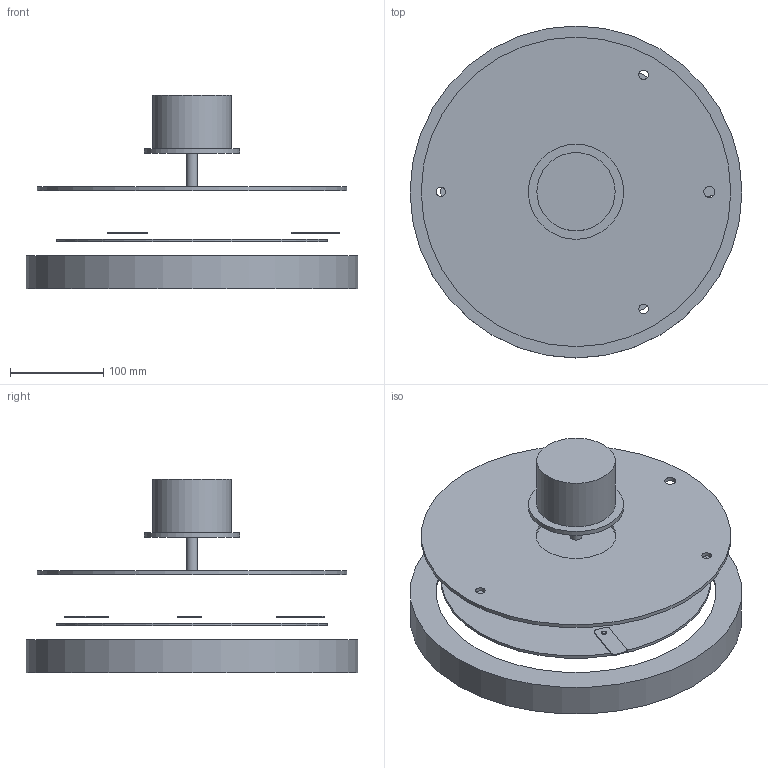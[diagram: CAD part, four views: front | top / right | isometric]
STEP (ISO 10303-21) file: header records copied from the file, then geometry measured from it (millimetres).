
FILE_DESCRIPTION(('Open CASCADE Model'),'2;1');
FILE_NAME('Open CASCADE Shape Model','2026-09-16T16:54:28',('Author'),( 'Open CASCADE'),'Open CASCADE STEP processor 7.8','Open CASCADE 7.8' ,'Unknown');
FILE_SCHEMA(('AUTOMOTIVE_DESIGN { 1 0 10303 214 1 1 1 1 }'));
Length unit declared in the file: millimetre
Products named in the file (6): cutting_deck_exploded_view; guard; blade_carrier; pivot_blade_1; height_carriage; blade_motor_proxy
Assembly tree (7 placements, depth 2):
  cutting_deck_exploded_view
    guard
    blade_carrier
    pivot_blade_1  x3
    height_carriage
    blade_motor_proxy
Bounding box: 356 x 356 x 207 mm (x, y, z)
Volume: 1283435.5 mm3; surface area: 475031.4 mm2
Topology: 7 solids, 7 shells, 67 faces, 147 edges, 97 vertices
Faces by surface type: cylinder 38, plane 29
Full cylindrical faces by diameter (mm): 5.2 x3, 5.5 x9, 10.2 x3, 12 x2, 16 x1, 84 x1, 86 x1, 102 x1, 290 x1, 300 x1, 332 x1, 338 x1, 356 x1
Entity records: 2576 total; most frequent: CARTESIAN_POINT 558, DIRECTION 389, ORIENTED_EDGE 178, PCURVE 178, DEFINITIONAL_REPRESENTATION 178, LINE 165, VECTOR 165, AXIS2_PLACEMENT_3D 102
